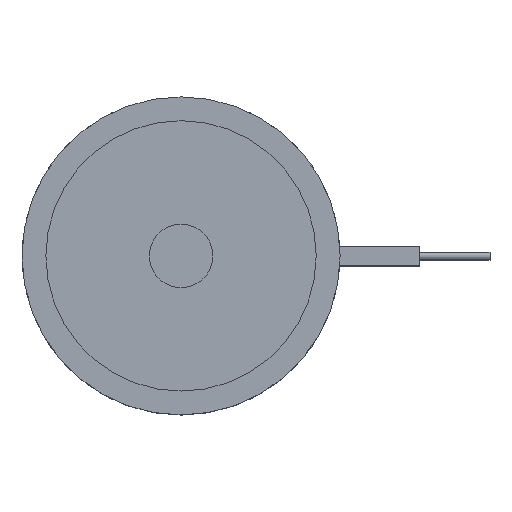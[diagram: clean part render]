
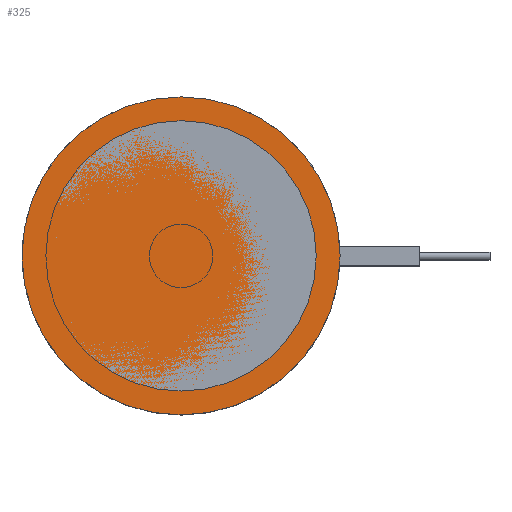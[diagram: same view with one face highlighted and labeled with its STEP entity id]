
A CAD part, top view. The second image highlights one B-rep face of the part: STEP entity #325.
In plain terms, the highlighted planar face has unit normal (0, 0, 1).
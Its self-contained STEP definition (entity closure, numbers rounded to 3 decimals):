
#239=CIRCLE('',#1154,20.);
#325=ADVANCED_FACE('',(#427),#389,.F.);
#389=PLANE('',#1155);
#427=FACE_OUTER_BOUND('',#514,.T.);
#514=EDGE_LOOP('',(#654));
#654=ORIENTED_EDGE('',*,*,#945,.F.);
#849=VERTEX_POINT('',#1699);
#945=EDGE_CURVE('',#849,#849,#239,.T.);
#1154=AXIS2_PLACEMENT_3D('',#1698,#1364,#1365);
#1155=AXIS2_PLACEMENT_3D('',#1700,#1366,#1367);
#1364=DIRECTION('',(0.,0.,-1.));
#1365=DIRECTION('',(-1.,0.,0.));
#1366=DIRECTION('',(0.,0.,-1.));
#1367=DIRECTION('',(-1.,0.,0.));
#1698=CARTESIAN_POINT('',(0.,0.,0.));
#1699=CARTESIAN_POINT('',(-20.,0.,0.));
#1700=CARTESIAN_POINT('',(0.,0.,0.));
